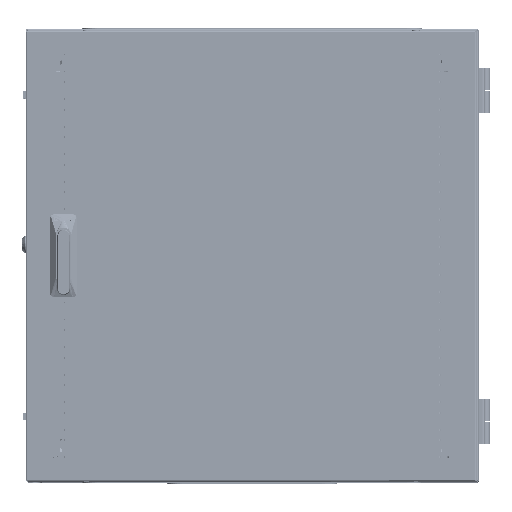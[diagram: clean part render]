
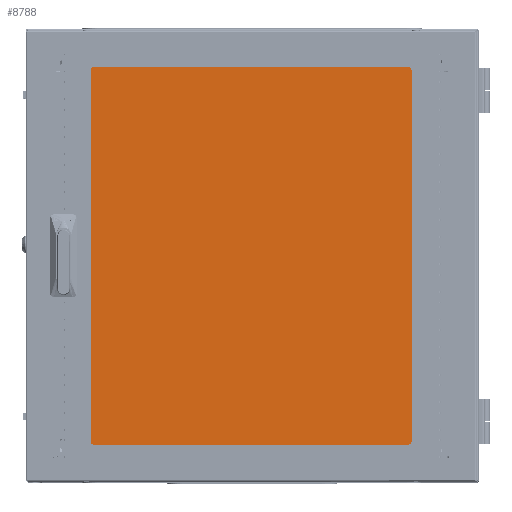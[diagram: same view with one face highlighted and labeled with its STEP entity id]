
A CAD part, top view. The second image highlights one B-rep face of the part: STEP entity #8788.
In plain terms, the highlighted planar face has unit normal (0, 0, 1) as drawn and (0, 0, -1) by its records, which use the part's own axes.
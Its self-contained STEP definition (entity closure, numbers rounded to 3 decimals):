
#423 = LINE ( 'NONE', #12440, #66730 ) ;
#2578 = CARTESIAN_POINT ( 'NONE',  ( -217.5, -255., 0. ) ) ;
#8788 = ADVANCED_FACE ( 'NONE', ( #141095 ), #73898, .T. ) ;
#12440 = CARTESIAN_POINT ( 'NONE',  ( 217.5, -255., 0. ) ) ;
#15929 = DIRECTION ( 'NONE',  ( 1., 0., 0. ) ) ;
#17660 = EDGE_CURVE ( 'NONE', #113328, #106735, #111979, .T. ) ;
#20772 = EDGE_CURVE ( 'NONE', #93451, #113328, #423, .T. ) ;
#21147 = DIRECTION ( 'NONE',  ( 0., -1., 0. ) ) ;
#21204 = CARTESIAN_POINT ( 'NONE',  ( 0., 0., 0. ) ) ;
#28646 = CARTESIAN_POINT ( 'NONE',  ( 217.5, 255., 0. ) ) ;
#34552 = DIRECTION ( 'NONE',  ( -1., 0., 0. ) ) ;
#36214 = ORIENTED_EDGE ( 'NONE', *, *, #139435, .F. ) ;
#43469 = ORIENTED_EDGE ( 'NONE', *, *, #17660, .F. ) ;
#49810 = ORIENTED_EDGE ( 'NONE', *, *, #20772, .F. ) ;
#56701 = AXIS2_PLACEMENT_3D ( 'NONE', #21204, #113875, #34552 ) ;
#60430 = VERTEX_POINT ( 'NONE', #143772 ) ;
#63358 = EDGE_CURVE ( 'NONE', #106735, #60430, #100282, .T. ) ;
#64993 = VECTOR ( 'NONE', #21147, 1000. ) ;
#66730 = VECTOR ( 'NONE', #158410, 1000. ) ;
#70099 = EDGE_LOOP ( 'NONE', ( #49810, #36214, #150967, #43469 ) ) ;
#73898 = PLANE ( 'NONE',  #56701 ) ;
#85241 = CARTESIAN_POINT ( 'NONE',  ( -217.5, 255., 0. ) ) ;
#86437 = CARTESIAN_POINT ( 'NONE',  ( 217.5, -255., 0. ) ) ;
#86864 = CARTESIAN_POINT ( 'NONE',  ( -217.5, 255., 0. ) ) ;
#93451 = VERTEX_POINT ( 'NONE', #86437 ) ;
#98851 = LINE ( 'NONE', #2578, #129858 ) ;
#100282 = LINE ( 'NONE', #166486, #64993 ) ;
#106735 = VERTEX_POINT ( 'NONE', #86864 ) ;
#111979 = LINE ( 'NONE', #85241, #116155 ) ;
#113328 = VERTEX_POINT ( 'NONE', #28646 ) ;
#113875 = DIRECTION ( 'NONE',  ( 0., 0., -1. ) ) ;
#116155 = VECTOR ( 'NONE', #164528, 1000. ) ;
#129858 = VECTOR ( 'NONE', #15929, 1000. ) ;
#139435 = EDGE_CURVE ( 'NONE', #60430, #93451, #98851, .T. ) ;
#141095 = FACE_OUTER_BOUND ( 'NONE', #70099, .T. ) ;
#143772 = CARTESIAN_POINT ( 'NONE',  ( -217.5, -255., 0. ) ) ;
#150967 = ORIENTED_EDGE ( 'NONE', *, *, #63358, .F. ) ;
#158410 = DIRECTION ( 'NONE',  ( 0., 1., 0. ) ) ;
#164528 = DIRECTION ( 'NONE',  ( -1., 0., 0. ) ) ;
#166486 = CARTESIAN_POINT ( 'NONE',  ( -217.5, -255., 0. ) ) ;
